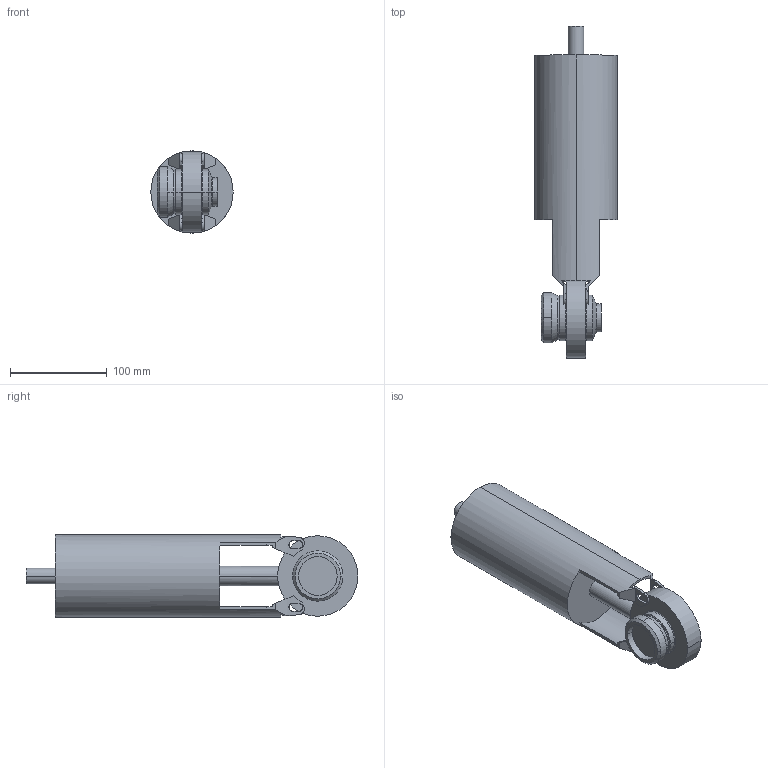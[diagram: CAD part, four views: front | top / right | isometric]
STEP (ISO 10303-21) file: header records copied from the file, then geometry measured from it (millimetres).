
FILE_DESCRIPTION(('Creo Elements/Direct Modeling STEP Export'),'2;1');
FILE_NAME('SV1-25-FZ-1S-2G.stp','2016-09-29T15:06:47',(''),(''),'PTC Creo Elements/Direct Modeling STEP processor for AP214 (Solid Model)','PTC Creo Elements/Direct Modeling 19.0B 21-Mar-2015 (C) Parametric Technology GmbH','');
FILE_SCHEMA(('AUTOMOTIVE_DESIGN { 1 0 10303 214 1 1 1 1 }'));
Length unit declared in the file: millimetre
Products named in the file (3): Luftanschluß; SV1-25-FZ-1S2G
Assembly tree (2 placements, depth 2):
  SV1-25-FZ-1S2G
    SV1-25-FZ-1S2G
    Luftanschluß
Bounding box: 85 x 342.93 x 85 mm (x, y, z)
Volume: 1175535.2 mm3; surface area: 101874.8 mm2
Topology: 2 solids, 2 shells, 126 faces, 351 edges, 222 vertices
Faces by surface type: plane 74, cylinder 36, cone 8, torus 8
Entity records: 4360 total; most frequent: CARTESIAN_POINT 1190, ORIENTED_EDGE 702, DIRECTION 621, EDGE_CURVE 351, VERTEX_POINT 222, AXIS2_PLACEMENT_3D 219, VECTOR 183, LINE 183
